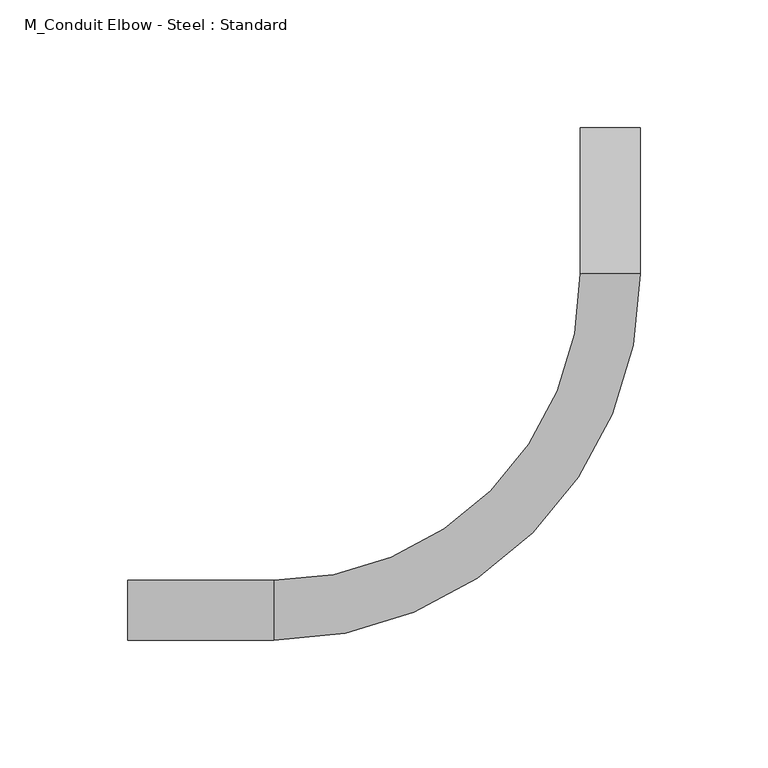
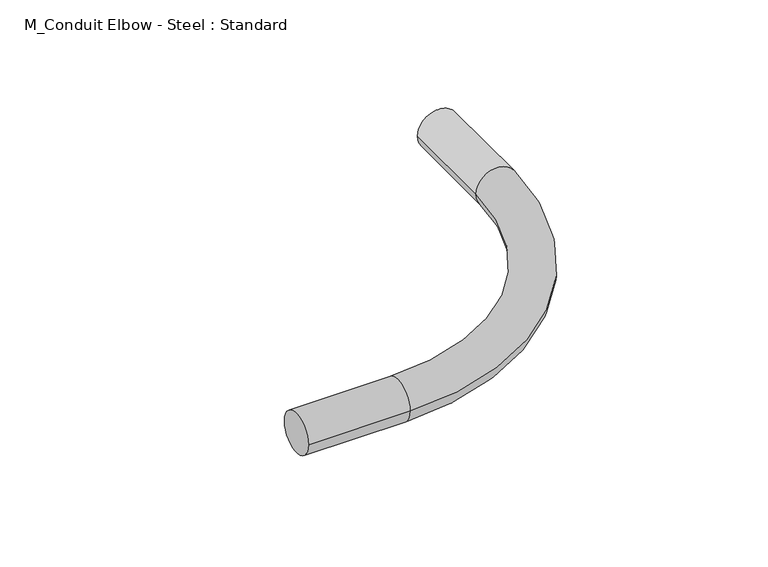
"""IFC4 building model written with IfcOpenShell, lengths in millimetres: cable carrier fitting geometry, M_Conduit Elbow - Steel : Standard."""

from ifc_helpers import new_model, si_unit, point, frame, origin, place, context, project, spatial, circle_curve, ellipse_curve, trimmed, source, transform, mapped, element, save
from ifc_brep_helpers import plane_surface, cylinder_surface, revolved_surface, advanced_brep


def m_conduit_elbow_steel_standard_abbd3826(model_context):
    return source(origin(), model_context, "Body", "AdvancedBrep", [
        advanced_brep(
        [(-188.9131057, -11.7094, 0.0), (-188.9131057, 11.7094, 0.0), (-131.7631057, -11.7094, 0.0), (-131.7631057, 11.7094, 0.0), (-11.7100057, 131.7630519, 0.0), (11.7087943, 131.7631595, 0.0), (11.7085316, 188.9131595, 0.0), (-11.7102684, 188.9130519, 0.0)],
        [
            (0, 1, circle_curve(frame((-188.9131057, 0.0, 0.0), z_axis=(-1.0, 0.0, 0.0), x_axis=(0.0, 1.0, 0.0)), 11.7094)),
            (1, 0, circle_curve(frame((-188.9131057, 0.0, 0.0), z_axis=(-1.0, 0.0, 0.0), x_axis=(0.0, 1.0, 0.0)), 11.7094)),
            (0, 2),
            (2, 3, circle_curve(frame((-131.7631057, 0.0, 0.0), z_axis=(-1.0, 0.0, 0.0), x_axis=(0.0, 1.0, 0.0)), 11.7094)),
            (3, 1),
            (3, 2, circle_curve(frame((-131.7631057, 0.0, 0.0), z_axis=(-1.0, 0.0, 0.0), x_axis=(0.0, 1.0, 0.0)), 11.7094)),
            (4, 3, circle_curve(frame((-131.7631057, 131.7625, 0.0), z_axis=(0.0, 0.0, -1.0), x_axis=(0.0, -1.0, 0.0)), 120.0531)),
            (2, 5, circle_curve(frame((-131.7631057, 131.7625, 0.0), z_axis=(0.0, 0.0, 1.0), x_axis=(0.0, -1.0, 0.0)), 143.4719)),
            (5, 4, circle_curve(frame((-0.0006057, 131.7631057, 0.0), z_axis=(4.596837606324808e-06, -0.9999999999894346, 0.0), x_axis=(-0.9999999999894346, -4.596837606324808e-06, 0.0)), 11.7094)),
            (4, 5, circle_curve(frame((-0.0006057, 131.7631057, 0.0), z_axis=(4.596837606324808e-06, -0.9999999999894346, 0.0), x_axis=(-0.9999999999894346, -4.596837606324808e-06, 0.0)), 11.7094)),
            (6, 7, circle_curve(frame((-0.0008684, 188.9131057, 0.0), z_axis=(-4.59683760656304e-06, 0.9999999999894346, 0.0), x_axis=(-0.9999999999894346, -4.59683760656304e-06, 0.0)), 11.7094)),
            (7, 6, circle_curve(frame((-0.0008684, 188.9131057, 0.0), z_axis=(-4.59683760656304e-06, 0.9999999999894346, 0.0), x_axis=(-0.9999999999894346, -4.59683760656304e-06, 0.0)), 11.7094)),
            (5, 6),
            (7, 4),
        ],
        [
            plane_surface(frame((-188.9131057, 0.0, 0.0), z_axis=(-1.0, 0.0, 0.0), x_axis=(0.0, 0.0, 1.0))),
            cylinder_surface(frame((-188.9131057, 0.0, 0.0), z_axis=(-1.0, 0.0, 0.0), x_axis=(0.0, 1.0, 0.0)), 11.7094),
            revolved_surface(trimmed(ellipse_curve(frame((-131.7631057, 0.0, 0.0), z_axis=(-1.0, 0.0, 0.0), x_axis=(0.0, 1.0, 0.0)), 11.7094, 11.7094), [point((-131.7631057, -11.7094, 0.0))], [point((-131.7631057, 11.7094, 0.0))], True, "CARTESIAN"), (-131.7631057, 131.7625, 0.0), (0.0, 0.0, 1.0)),
            revolved_surface(trimmed(ellipse_curve(frame((-131.7631057, 0.0, 0.0), z_axis=(-1.0, 0.0, 0.0), x_axis=(0.0, 1.0, 0.0)), 11.7094, 11.7094), [point((-131.7631057, 11.7094, 0.0))], [point((-131.7631057, -11.7094, 0.0))], True, "CARTESIAN"), (-131.7631057, 131.7625, 0.0), (0.0, 0.0, 1.0)),
            plane_surface(frame((-0.0008684, 188.9131057, 0.0), z_axis=(-4.59683760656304e-06, 0.9999999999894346, 0.0), x_axis=(0.0, 0.0, 1.0))),
            cylinder_surface(frame((-0.0006057, 131.7631057, 0.0), z_axis=(4.59683760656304e-06, -0.9999999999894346, 0.0), x_axis=(-0.9999999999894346, -4.59683760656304e-06, 0.0)), 11.7094),
        ],
        [
            (0, [[1, 2]]),
            (1, [[-1, 3, 4, 5]]),
            (1, [[-2, -5, 6, -3]]),
            (2, [[7, -4, 8, 9]]),
            (3, [[-8, -6, -7, 10]]),
            (4, [[11, 12]]),
            (5, [[-9, 13, -12, 14]]),
            (5, [[-10, -14, -11, -13]]),
        ],
    ),
    ])


if __name__ == "__main__":
    model = new_model("IFC4")
    model_context = context("Model", 3, world=origin())
    ifc_project = project(units=[si_unit("LENGTHUNIT", "METRE", prefix="MILLI")], contexts=[model_context])
    site = spatial("IfcSite", under=ifc_project)
    building = spatial("IfcBuilding", under=site)
    placement = place(None, origin())
    m_conduit_elbow_steel_standard_shape = m_conduit_elbow_steel_standard_abbd3826(model_context)
    element("IfcCableCarrierFitting", 1, ObjectType="M_Conduit Elbow - Steel : Standard", at=placement, inside=building, context=model_context, shape_type="MappedRepresentation", body=[
        mapped(m_conduit_elbow_steel_standard_shape, transform((0.0, 0.0, 0.0), x_axis=(1.0, 0.0, 0.0), y_axis=(0.0, 1.0, 0.0), z_axis=(0.0, 0.0, 1.0))),
    ])
    save(model, "model.ifc")
